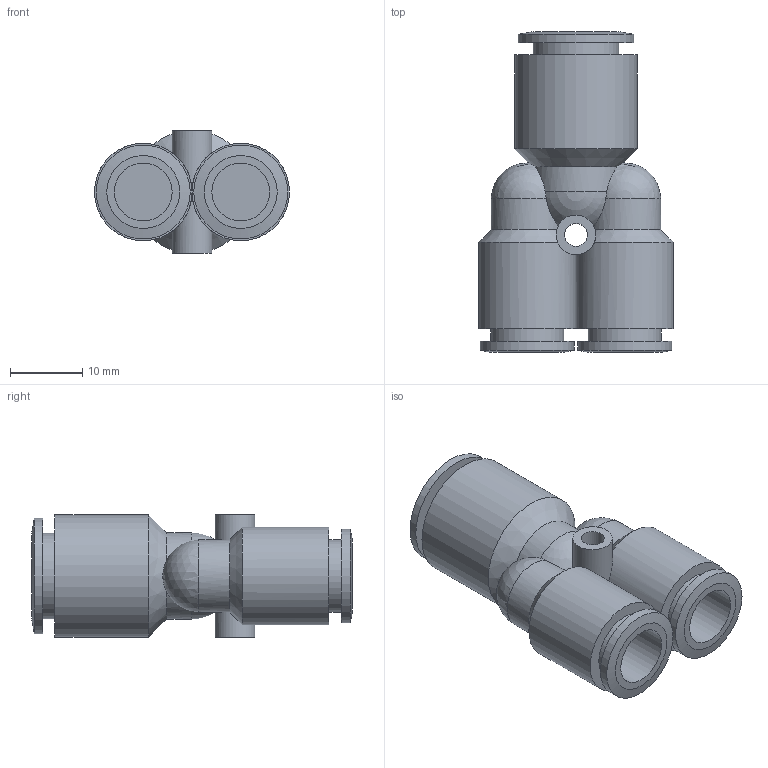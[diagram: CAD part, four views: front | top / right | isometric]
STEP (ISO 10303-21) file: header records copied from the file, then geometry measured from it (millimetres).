
FILE_DESCRIPTION((''),'2;1');
FILE_NAME('C:\Documents and Settings\rivolro1\Documenti\copia di Raccordi\PLASTICA\T23XXXX\T230810.stp','2007-11-02T14:44:41',('Rivolro1'),(''),'Autodesk Inventor 2008','Autodesk Inventor 2008','');
FILE_SCHEMA(('AUTOMOTIVE_DESIGN { 1 0 10303 214 1 1 1 1 }'));
Length unit declared in the file: millimetre
Products named in the file (1): T230810
Bounding box: 27 x 44.4 x 17 mm (x, y, z)
Volume: 7362 mm3; surface area: 5393.7 mm2
Topology: 1 solids, 1 shells, 43 faces, 102 edges, 63 vertices
Faces by surface type: cylinder 18, plane 14, cone 6, sphere 4, bspline 1
Full cylindrical faces by diameter (mm): 5.5 x2, 8 x2, 10 x1, 10.1 x2, 11.9 x1, 13 x2, 13.5 x2, 16 x1, 17 x1
Entity records: 1385 total; most frequent: CARTESIAN_POINT 459, DIRECTION 186, ORIENTED_EDGE 150, AXIS2_PLACEMENT_3D 92, EDGE_CURVE 75, EDGE_LOOP 71, VERTEX_POINT 59, CIRCLE 49
